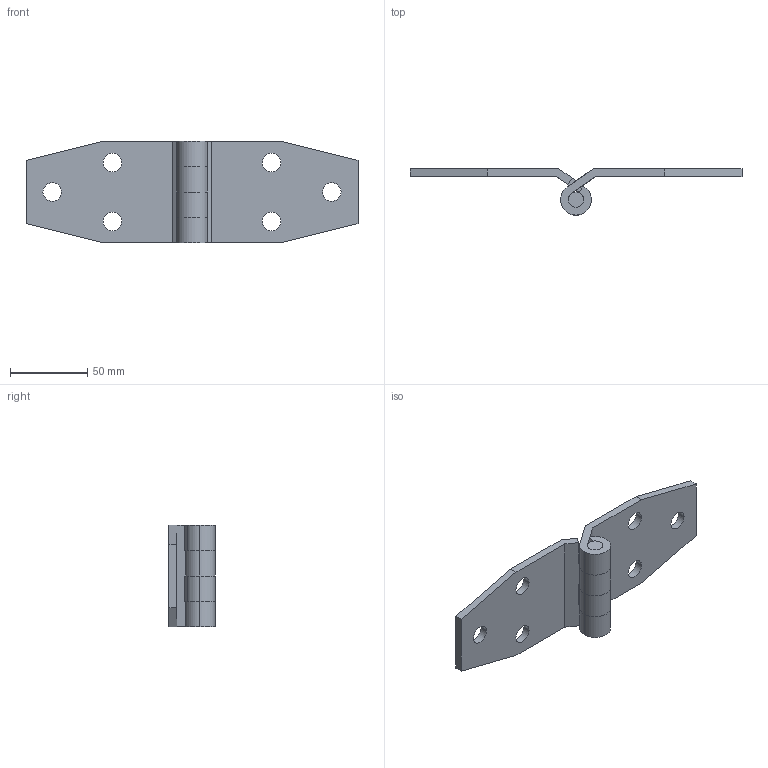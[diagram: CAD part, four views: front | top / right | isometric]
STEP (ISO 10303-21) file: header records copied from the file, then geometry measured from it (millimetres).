
FILE_DESCRIPTION((''),'2;1');
FILE_NAME('6158.02.stp','2014-05-12T09:33:32',(''),(''),'Mechanical Desktop 2006','Mechanical Desktop 2006',', , ');
FILE_SCHEMA(('CONFIG_CONTROL_DESIGN'));
Length unit declared in the file: millimetre
Products named in the file (3): 6158.02; TEIL1; TEIL2
Assembly tree (2 placements, depth 2):
  6158.02
    TEIL1
    TEIL2
Bounding box: 215 x 30 x 66 mm (x, y, z)
Volume: 81299.8 mm3; surface area: 37259.9 mm2
Topology: 2 solids, 2 shells, 66 faces, 192 edges, 128 vertices
Faces by surface type: cylinder 33, plane 33
Entity records: 2359 total; most frequent: DIRECTION 402, CARTESIAN_POINT 389, ORIENTED_EDGE 384, EDGE_CURVE 192, AXIS2_PLACEMENT_3D 141, VERTEX_POINT 128, VECTOR 120, LINE 120
